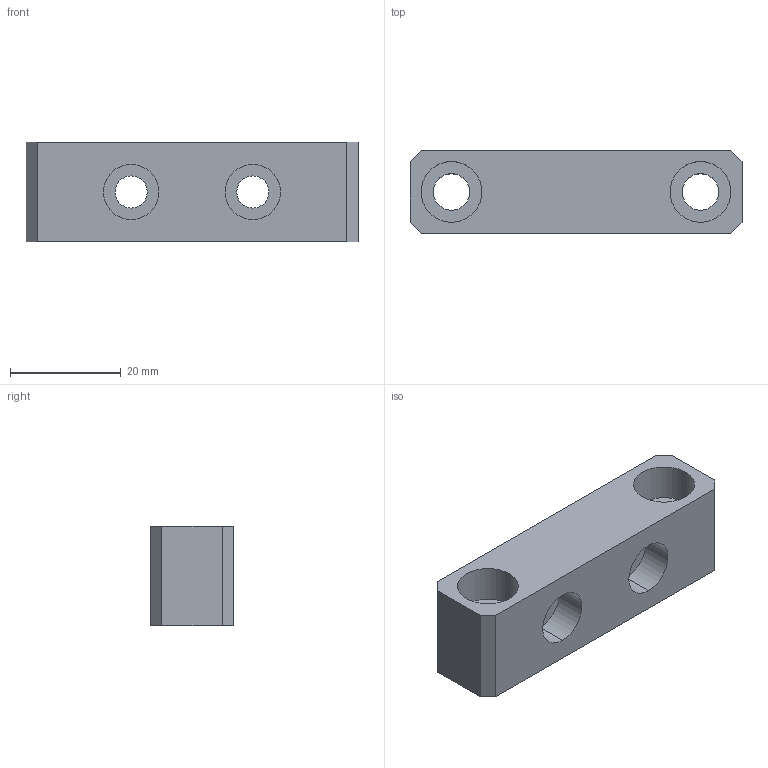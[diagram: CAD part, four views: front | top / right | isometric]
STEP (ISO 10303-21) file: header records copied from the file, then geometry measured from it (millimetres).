
FILE_DESCRIPTION (( 'STEP AP214' ), '1' );
FILE_NAME ('GZ30.17_V1气缸连接块.STEP', '2021-06-06T14:05:22', ( 'hp' ), ( '' ), 'SwSTEP 2.0', 'SolidWorks 2017', '' );
FILE_SCHEMA (( 'AUTOMOTIVE_DESIGN' ));
Length unit declared in the file: millimetre
Products named in the file (1): GZ30.17_V1气缸连接块
Bounding box: 60 x 15 x 18 mm (x, y, z)
Volume: 12610.4 mm3; surface area: 5788.6 mm2
Topology: 1 solids, 1 shells, 30 faces, 72 edges, 48 vertices
Faces by surface type: cylinder 16, plane 14
Entity records: 938 total; most frequent: DIRECTION 166, CARTESIAN_POINT 151, ORIENTED_EDGE 144, EDGE_CURVE 72, AXIS2_PLACEMENT_3D 63, VERTEX_POINT 48, EDGE_LOOP 42, VECTOR 40
